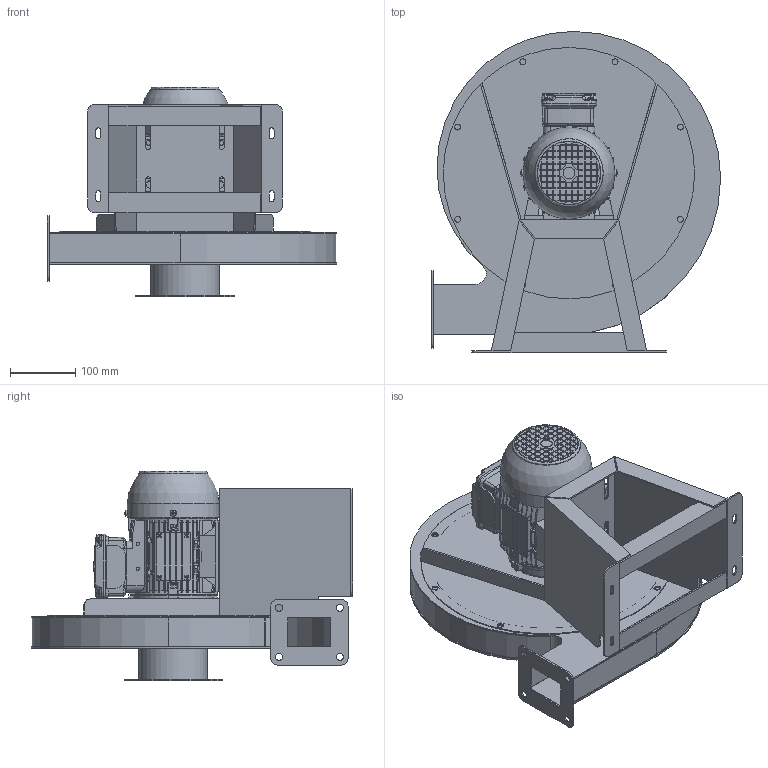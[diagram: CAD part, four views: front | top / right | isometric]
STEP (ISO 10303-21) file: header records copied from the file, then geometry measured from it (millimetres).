
FILE_DESCRIPTION((''),'2;1');
FILE_NAME('X:\CAD_3D\VENTILATORI DI SERIE\H\H35\H35 - 71 - RD270.stp','2016-11-10T09:40:50',('tecnico'),(''),'Autodesk Inventor 2012','Autodesk Inventor 2012','');
FILE_SCHEMA(('CONFIG_CONTROL_DESIGN'));
Length unit declared in the file: millimetre
Products named in the file (13): H35 - 71 - RD270; C1H35L_MIR; CL1H35_MIR; FH350A1_MIR; FH350M1_MIR; FL1H350_MIR; FP1H3512_MIR; SQ1H350_MIR; D536804508_MIR; SE1H35071_MIR; 71_TOP_MIR4; AN130303231_MIR; PT1253215_MIR
Assembly tree (14 placements, depth 3):
  H35 - 71 - RD270
    C1H35L_MIR
      CL1H35_MIR
      FH350A1_MIR
      FH350M1_MIR
      FL1H350_MIR
      FP1H3512_MIR
      SQ1H350_MIR
    D536804508_MIR
    SE1H35071_MIR
    71_TOP_MIR4
    AN130303231_MIR  x2
    PT1253215_MIR  x2
Bounding box: 441.5 x 490.5 x 320 mm (x, y, z)
Volume: 4409050.1 mm3; surface area: 1514204.8 mm2
Topology: 13 solids, 19 shells, 2467 faces, 6480 edges, 4176 vertices
Faces by surface type: plane 1658, bspline 356, cylinder 271, cone 88, torus 62, sphere 32
Full cylindrical faces by diameter (mm): 2.2 x4, 5 x20, 6 x10, 6.5 x8, 7 x4, 9 x8, 9.5 x7, 11 x10, 13.6 x1, 14 x1, 16.95 x2, 17.2 x1, 18 x1, 24 x1, 26 x1, 45 x1, 102 x1, 105 x3, 117 x2, 150 x1, 352 x1, 384 x1
Entity records: 116981 total; most frequent: CARTESIAN_POINT 57231, ORIENTED_EDGE 12582, DIRECTION 11542, EDGE_CURVE 6291, VECTOR 4232, LINE 4232, VERTEX_POINT 4126, AXIS2_PLACEMENT_3D 3655
